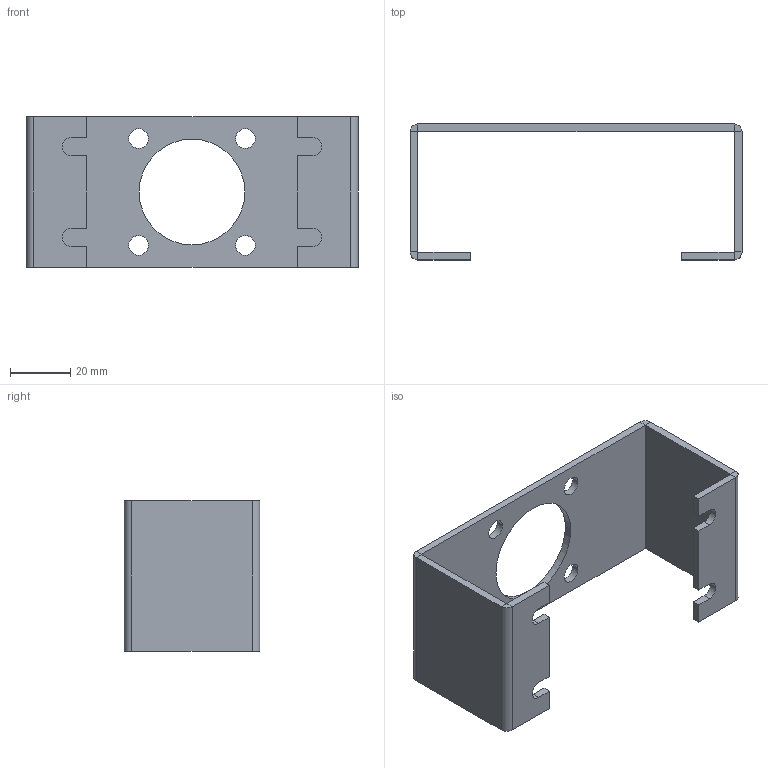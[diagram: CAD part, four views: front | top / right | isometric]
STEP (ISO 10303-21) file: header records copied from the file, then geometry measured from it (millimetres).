
FILE_DESCRIPTION (( 'STEP AP203' ), '1' );
FILE_NAME ('404.STEP', '2013-09-24T09:34:30', ( 'DAO' ), ( 'Microsoft' ), 'SwSTEP 2.0', 'SolidWorks 2012', '' );
FILE_SCHEMA (( 'CONFIG_CONTROL_DESIGN' ));
Length unit declared in the file: millimetre
Products named in the file (1): 404
Bounding box: 110 x 45 x 50 mm (x, y, z)
Volume: 25281.8 mm3; surface area: 22227.2 mm2
Topology: 1 solids, 1 shells, 66 faces, 160 edges, 96 vertices
Faces by surface type: plane 42, cylinder 24
Entity records: 1993 total; most frequent: DIRECTION 342, CARTESIAN_POINT 323, ORIENTED_EDGE 320, EDGE_CURVE 160, AXIS2_PLACEMENT_3D 115, VECTOR 112, LINE 112, VERTEX_POINT 96
